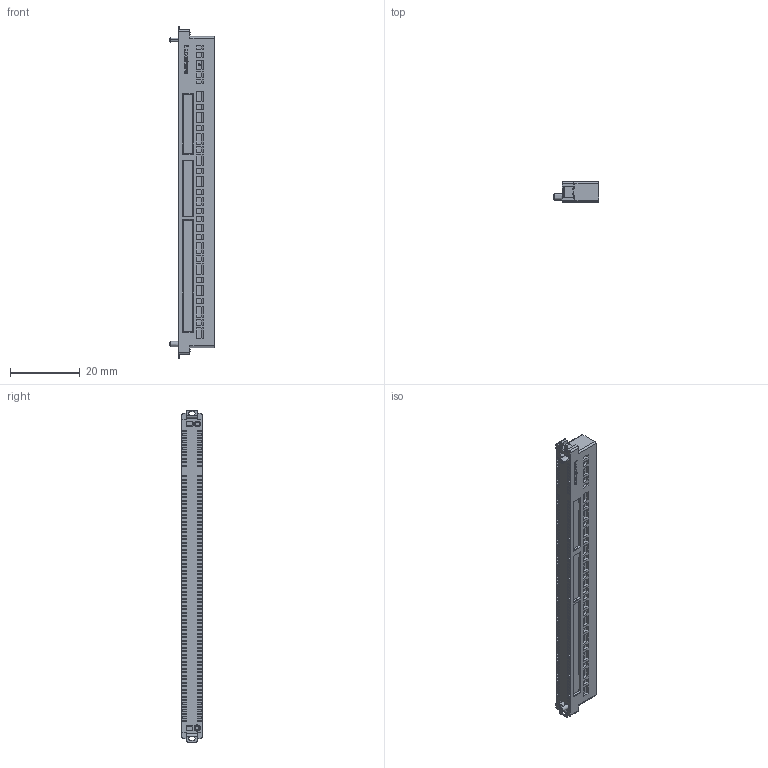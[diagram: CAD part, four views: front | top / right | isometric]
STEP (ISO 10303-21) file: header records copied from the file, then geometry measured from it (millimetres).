
FILE_DESCRIPTION((''),'2;1');
FILE_NAME('SLIM_PCIE5_0_SLOT_PLUS_164PIN_S','2026-07-10T15:55:55',('39000620'),(''),'CREO PARAMETRIC BY PTC INC, 2019471','CREO PARAMETRIC BY PTC INC, 2019471','');
FILE_SCHEMA(('CONFIG_CONTROL_DESIGN'));
Products named in the file (1): SLIM_PCIE5_0_SLOT_PLUS_164PIN_S
Bounding box: 12.9 x 5.85 x 95 mm (x, y, z)
Volume: 3779.1 mm3; surface area: 5885.4 mm2
Topology: 1 solids, 4 shells, 4241 faces, 11394 edges, 7570 vertices
Faces by surface type: plane 3356, cylinder 871, bspline 8, torus 2, cone 2, extrusion 2
Entity records: 133456 total; most frequent: CARTESIAN_POINT 24636, ORIENTED_EDGE 22788, DIRECTION 21579, EDGE_CURVE 11394, VECTOR 9615, LINE 9613, VERTEX_POINT 7570, AXIS2_PLACEMENT_3D 5982
